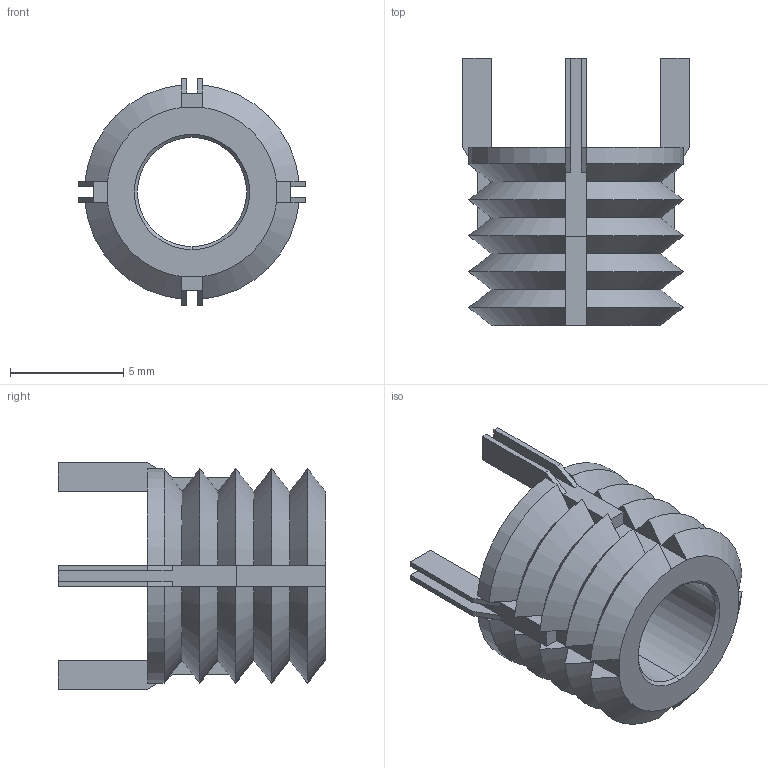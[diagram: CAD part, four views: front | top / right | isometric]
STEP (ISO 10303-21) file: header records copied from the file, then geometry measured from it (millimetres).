
FILE_DESCRIPTION (( 'STEP AP203' ), '1' );
FILE_NAME ('TR1565.66301.step', '2023-03-29T14:30:25', ( '' ), ( '' ), 'SwSTEP 2.0', 'SolidWorks 2019', '' );
FILE_SCHEMA (( 'CONFIG_CONTROL_DESIGN' ));
Length unit declared in the file: inch
Products named in the file (3): TR1565.66301; Part1_TR1565.66301; Part2_TR1565.66301
Assembly tree (5 placements, depth 2):
  TR1565.66301
    Part1_TR1565.66301
    Part2_TR1565.66301  x4
Bounding box: 10.02 x 11.81 x 10.02 mm (x, y, z)
Volume: 325.7 mm3; surface area: 690.6 mm2
Topology: 5 solids, 5 shells, 140 faces, 314 edges, 184 vertices
Faces by surface type: plane 94, cone 40, cylinder 6
Entity records: 3243 total; most frequent: CARTESIAN_POINT 724, ORIENTED_EDGE 448, DIRECTION 428, EDGE_CURVE 224, AXIS2_PLACEMENT_3D 164, VERTEX_POINT 124, EDGE_LOOP 106, ADVANCED_FACE 104
